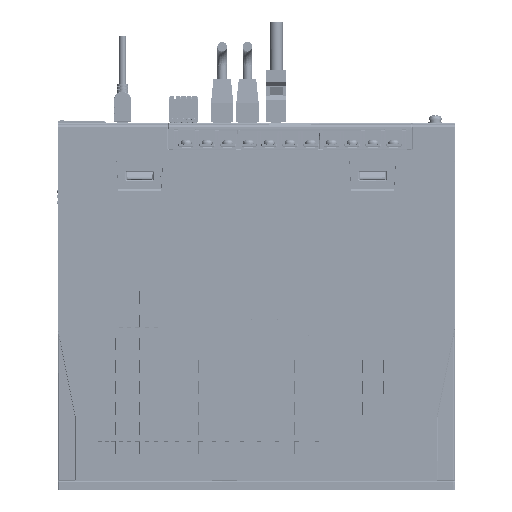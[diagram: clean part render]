
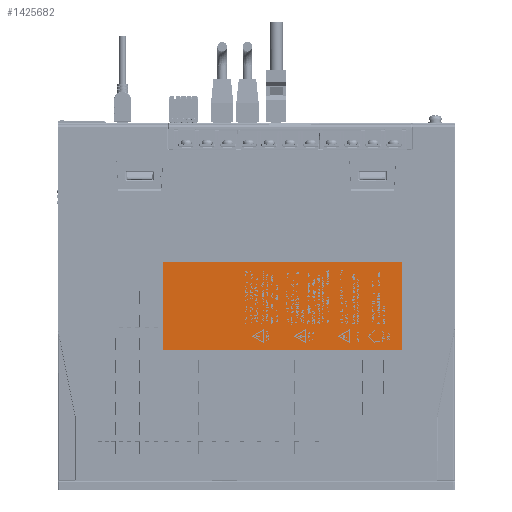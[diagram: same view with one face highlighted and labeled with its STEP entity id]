
A CAD part, left-side view. The second image highlights one B-rep face of the part: STEP entity #1425682.
In plain terms, the highlighted planar face has unit normal (-1, 0, 0).
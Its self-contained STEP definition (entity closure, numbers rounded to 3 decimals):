
#1413485=CARTESIAN_POINT('Vertex',(-38.019,66.485,143.012)) ;
#1413488=CARTESIAN_POINT('Line Origine',(-38.019,-8.466,143.012)) ;
#1413492=CARTESIAN_POINT('Vertex',(-38.019,-83.416,143.012)) ;
#1413512=CARTESIAN_POINT('Line Origine',(-38.019,-83.416,115.512)) ;
#1413516=CARTESIAN_POINT('Vertex',(-38.019,-83.416,88.012)) ;
#1413536=CARTESIAN_POINT('Line Origine',(-38.019,-8.466,88.012)) ;
#1413540=CARTESIAN_POINT('Vertex',(-38.019,66.485,88.012)) ;
#1413560=CARTESIAN_POINT('Line Origine',(-38.019,66.485,115.512)) ;
#1425671=CARTESIAN_POINT('Axis2P3D Location',(-38.019,81.535,148.572)) ;
#1413489=DIRECTION('Vector Direction',(0.,-1.,0.)) ;
#1413513=DIRECTION('Vector Direction',(0.,0.,-1.)) ;
#1413537=DIRECTION('Vector Direction',(0.,1.,0.)) ;
#1413561=DIRECTION('Vector Direction',(0.,0.,1.)) ;
#1425672=DIRECTION('Axis2P3D Direction',(-1.,0.,0.)) ;
#1425673=DIRECTION('Axis2P3D XDirection',(0.,1.,0.)) ;
#1425674=AXIS2_PLACEMENT_3D('Plane Axis2P3D',#1425671,#1425672,#1425673) ;
#1425677=ORIENTED_EDGE('',*,*,#1413564,.F.) ;
#1425678=ORIENTED_EDGE('',*,*,#1413542,.F.) ;
#1425679=ORIENTED_EDGE('',*,*,#1413518,.F.) ;
#1425680=ORIENTED_EDGE('',*,*,#1413494,.F.) ;
#1413490=VECTOR('Line Direction',#1413489,1.) ;
#1413514=VECTOR('Line Direction',#1413513,1.) ;
#1413538=VECTOR('Line Direction',#1413537,1.) ;
#1413562=VECTOR('Line Direction',#1413561,1.) ;
#1425682=ADVANCED_FACE('MANIFOLD_SOLID_BREP #23966',(#1425681),#1425675,.T.) ;
#1413494=EDGE_CURVE('',#1413486,#1413493,#1413491,.T.) ;
#1413518=EDGE_CURVE('',#1413493,#1413517,#1413515,.T.) ;
#1413542=EDGE_CURVE('',#1413517,#1413541,#1413539,.T.) ;
#1413564=EDGE_CURVE('',#1413541,#1413486,#1413563,.T.) ;
#1425676=EDGE_LOOP('',(#1425677,#1425678,#1425679,#1425680)) ;
#1425681=FACE_OUTER_BOUND('',#1425676,.T.) ;
#1413491=LINE('Line',#1413488,#1413490) ;
#1413515=LINE('Line',#1413512,#1413514) ;
#1413539=LINE('Line',#1413536,#1413538) ;
#1413563=LINE('Line',#1413560,#1413562) ;
#1425675=PLANE('Plane',#1425674) ;
#1413486=VERTEX_POINT('',#1413485) ;
#1413493=VERTEX_POINT('',#1413492) ;
#1413517=VERTEX_POINT('',#1413516) ;
#1413541=VERTEX_POINT('',#1413540) ;
